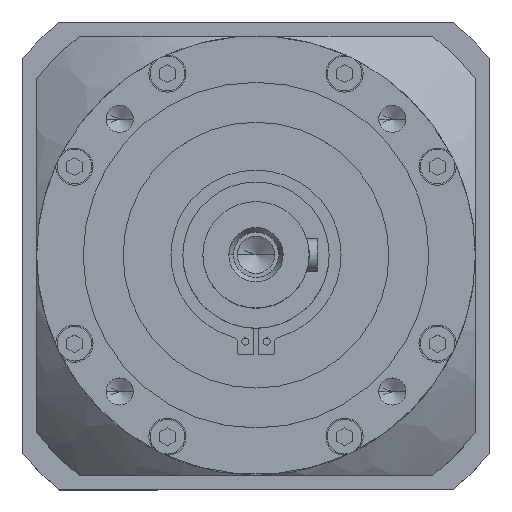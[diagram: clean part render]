
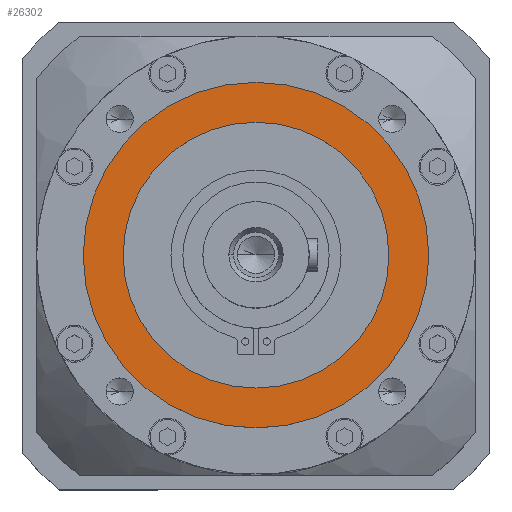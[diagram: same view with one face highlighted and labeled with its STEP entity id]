
A CAD part, top view. The second image highlights one B-rep face of the part: STEP entity #26302.
In plain terms, the highlighted planar face has unit normal (0, 0, 1).
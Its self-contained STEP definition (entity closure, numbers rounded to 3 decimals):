
#568 = CARTESIAN_POINT ( 'NONE',  ( -50., 0., 0. ) ) ;
#632 = DIRECTION ( 'NONE',  ( 0., 0., 1. ) ) ;
#1395 = VERTEX_POINT ( 'NONE', #31730 ) ;
#1938 = AXIS2_PLACEMENT_3D ( 'NONE', #8033, #26274, #10692 ) ;
#3276 = CIRCLE ( 'NONE', #4823, 65. ) ;
#3361 = EDGE_CURVE ( 'NONE', #19044, #13396, #8476, .T. ) ;
#3842 = CARTESIAN_POINT ( 'NONE',  ( 0., 0., 0. ) ) ;
#4823 = AXIS2_PLACEMENT_3D ( 'NONE', #3842, #22183, #6468 ) ;
#6468 = DIRECTION ( 'NONE',  ( 1., 0., 0. ) ) ;
#7922 = FACE_OUTER_BOUND ( 'NONE', #14909, .T. ) ;
#8033 = CARTESIAN_POINT ( 'NONE',  ( 0., 0., 0. ) ) ;
#8476 = CIRCLE ( 'NONE', #17633, 65. ) ;
#8986 = CARTESIAN_POINT ( 'NONE',  ( 0., 50., 0. ) ) ;
#10692 = DIRECTION ( 'NONE',  ( 1., 0., 0. ) ) ;
#11602 = DIRECTION ( 'NONE',  ( -1., 0., 0. ) ) ;
#13396 = VERTEX_POINT ( 'NONE', #15463 ) ;
#14114 = PLANE ( 'NONE',  #24822 ) ;
#14909 = EDGE_LOOP ( 'NONE', ( #26534, #28225 ) ) ;
#15424 = CARTESIAN_POINT ( 'NONE',  ( 65., 0., 0. ) ) ;
#15463 = CARTESIAN_POINT ( 'NONE',  ( -65., 0., 0. ) ) ;
#15593 = VERTEX_POINT ( 'NONE', #568 ) ;
#16405 = CARTESIAN_POINT ( 'NONE',  ( 0., 0., 0. ) ) ;
#17624 = CIRCLE ( 'NONE', #23942, 50. ) ;
#17633 = AXIS2_PLACEMENT_3D ( 'NONE', #18217, #18189, #18143 ) ;
#18143 = DIRECTION ( 'NONE',  ( 1., 0., 0. ) ) ;
#18189 = DIRECTION ( 'NONE',  ( 0., 0., -1. ) ) ;
#18217 = CARTESIAN_POINT ( 'NONE',  ( 0., 0., 0. ) ) ;
#18343 = EDGE_CURVE ( 'NONE', #1395, #15593, #17624, .T. ) ;
#19044 = VERTEX_POINT ( 'NONE', #15424 ) ;
#19075 = DIRECTION ( 'NONE',  ( 1., 0., 0. ) ) ;
#21830 = EDGE_CURVE ( 'NONE', #15593, #1395, #31269, .T. ) ;
#22183 = DIRECTION ( 'NONE',  ( 0., 0., -1. ) ) ;
#23942 = AXIS2_PLACEMENT_3D ( 'NONE', #16405, #632, #19075 ) ;
#24822 = AXIS2_PLACEMENT_3D ( 'NONE', #8986, #27151, #11602 ) ;
#25231 = EDGE_CURVE ( 'NONE', #13396, #19044, #3276, .T. ) ;
#25410 = EDGE_LOOP ( 'NONE', ( #32983, #26211 ) ) ;
#26211 = ORIENTED_EDGE ( 'NONE', *, *, #21830, .F. ) ;
#26274 = DIRECTION ( 'NONE',  ( 0., 0., 1. ) ) ;
#26302 = ADVANCED_FACE ( 'NONE', ( #7922, #28616 ), #14114, .F. ) ;
#26534 = ORIENTED_EDGE ( 'NONE', *, *, #3361, .F. ) ;
#27151 = DIRECTION ( 'NONE',  ( 0., 0., -1. ) ) ;
#28225 = ORIENTED_EDGE ( 'NONE', *, *, #25231, .F. ) ;
#28616 = FACE_BOUND ( 'NONE', #25410, .T. ) ;
#31269 = CIRCLE ( 'NONE', #1938, 50. ) ;
#31730 = CARTESIAN_POINT ( 'NONE',  ( 50., 0., 0. ) ) ;
#32983 = ORIENTED_EDGE ( 'NONE', *, *, #18343, .F. ) ;
